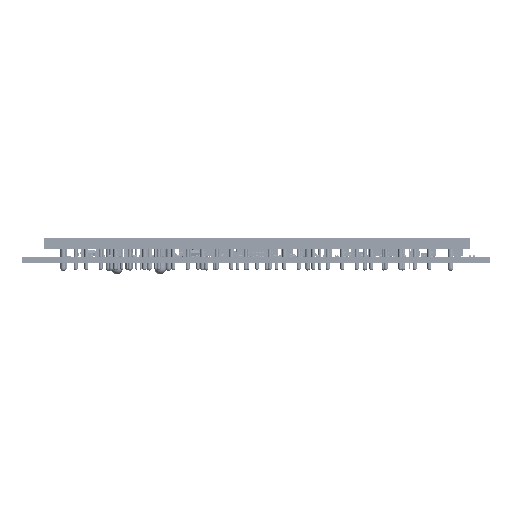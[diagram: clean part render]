
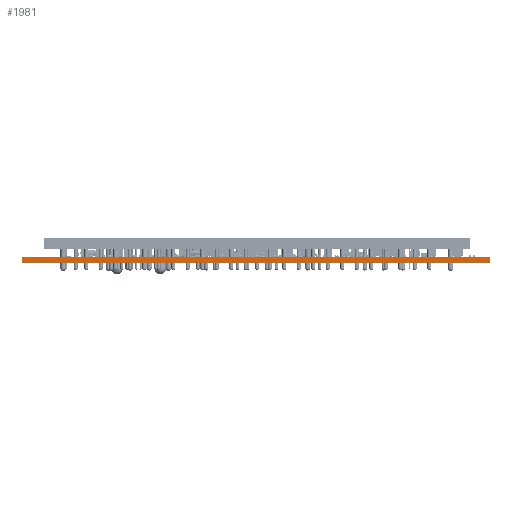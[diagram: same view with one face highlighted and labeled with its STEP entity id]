
A CAD part, left-side view. The second image highlights one B-rep face of the part: STEP entity #1981.
In plain terms, the highlighted planar face has unit normal (-1, 0, 0).
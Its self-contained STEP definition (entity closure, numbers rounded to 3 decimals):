
#1925 = VERTEX_POINT('',#1926);
#1926 = CARTESIAN_POINT('',(-173.045,72.54,0.787));
#1932 = EDGE_CURVE('',#1933,#1925,#1935,.T.);
#1933 = VERTEX_POINT('',#1934);
#1934 = CARTESIAN_POINT('',(-173.045,72.54,-0.787));
#1935 = LINE('',#1936,#1937);
#1936 = CARTESIAN_POINT('',(-173.045,72.54,-0.787));
#1937 = VECTOR('',#1938,1.);
#1938 = DIRECTION('',(0.,0.,1.));
#1981 = ADVANCED_FACE('',(#1982),#2007,.F.);
#1982 = FACE_BOUND('',#1983,.F.);
#1983 = EDGE_LOOP('',(#1984,#1985,#1993,#2001));
#1984 = ORIENTED_EDGE('',*,*,#1932,.T.);
#1985 = ORIENTED_EDGE('',*,*,#1986,.T.);
#1986 = EDGE_CURVE('',#1925,#1987,#1989,.T.);
#1987 = VERTEX_POINT('',#1988);
#1988 = CARTESIAN_POINT('',(-173.045,-50.46,0.787));
#1989 = LINE('',#1990,#1991);
#1990 = CARTESIAN_POINT('',(-173.045,72.54,0.787));
#1991 = VECTOR('',#1992,1.);
#1992 = DIRECTION('',(0.,-1.,0.));
#1993 = ORIENTED_EDGE('',*,*,#1994,.F.);
#1994 = EDGE_CURVE('',#1995,#1987,#1997,.T.);
#1995 = VERTEX_POINT('',#1996);
#1996 = CARTESIAN_POINT('',(-173.045,-50.46,-0.787));
#1997 = LINE('',#1998,#1999);
#1998 = CARTESIAN_POINT('',(-173.045,-50.46,-0.787));
#1999 = VECTOR('',#2000,1.);
#2000 = DIRECTION('',(0.,0.,1.));
#2001 = ORIENTED_EDGE('',*,*,#2002,.F.);
#2002 = EDGE_CURVE('',#1933,#1995,#2003,.T.);
#2003 = LINE('',#2004,#2005);
#2004 = CARTESIAN_POINT('',(-173.045,72.54,-0.787));
#2005 = VECTOR('',#2006,1.);
#2006 = DIRECTION('',(0.,-1.,0.));
#2007 = PLANE('',#2008);
#2008 = AXIS2_PLACEMENT_3D('',#2009,#2010,#2011);
#2009 = CARTESIAN_POINT('',(-173.045,72.54,-0.787));
#2010 = DIRECTION('',(1.,0.,0.));
#2011 = DIRECTION('',(0.,-1.,0.));
